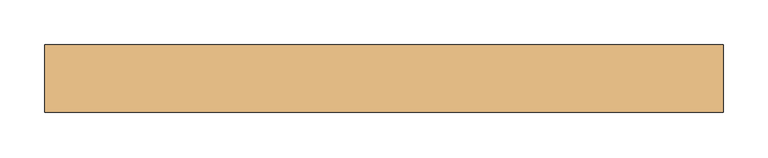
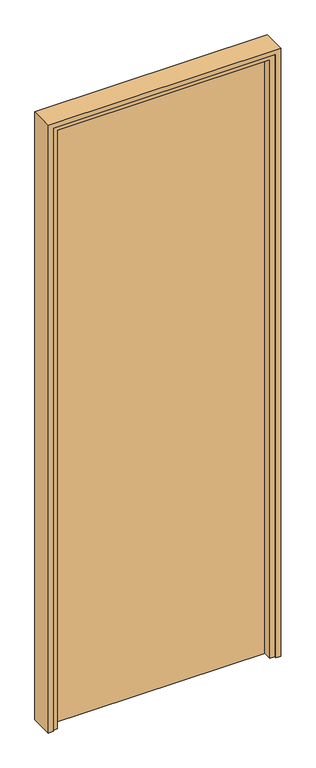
"""IFC4 building model written with IfcOpenShell, lengths in millimetres: door geometry, VERTI ELEMENT - dveřní panel : ELEMENT - dveřní panel."""

from ifc_helpers import new_model, si_unit, origin, origin_with_axes, place, context, project, spatial, polyline, outline, extrude, faceted_brep, source, transform, mapped, element, save


def door_bf8c5602(model_context):
    return source(origin(), model_context, "Body", "SolidModel", [
        extrude(outline(polyline([(361.5, 37.5), (361.5, -2.5), (-361.5, -2.5), (-361.5, 37.5), (361.5, 37.5)])), origin_with_axes(), (0.0, 0.0, 1.0), 2071.5),
        faceted_brep([(-361.5, -37.5, 0.0), (-377.5, -37.5, 0.0), (-377.5, 37.5, 0.0), (-361.5, 37.5, 0.0), (-361.5, -2.5, 0.0), (-345.5, -2.5, 0.0), (-345.5, -32.5, 0.0), (-361.5, -32.5, 0.0), (-361.5, -37.5, 2071.5), (361.5, -37.5, 2071.5), (361.5, -37.5, 0.0), (377.5, -37.5, 0.0), (377.5, -37.5, 2087.5), (-377.5, -37.5, 2087.5), (-377.5, 37.5, 2087.5), (377.5, 37.5, 2087.5), (377.5, 37.5, 0.0), (361.5, 37.5, 0.0), (361.5, 37.5, 2071.5), (-361.5, 37.5, 2071.5), (-361.5, -2.5, 2071.5), (361.5, -2.5, 2071.5), (361.5, -2.5, 0.0), (345.5, -2.5, 0.0), (345.5, -2.5, 2055.5), (-345.5, -2.5, 2055.5), (-345.5, -32.5, 2055.5), (345.5, -32.5, 2055.5), (345.5, -32.5, 0.0), (361.5, -32.5, 0.0), (361.5, -32.5, 2071.5), (-361.5, -32.5, 2071.5)], [[[0, 1, 2, 3, 4, 5, 6, 7]], [[1, 0, 8, 9, 10, 11, 12, 13]], [[2, 1, 13, 14]], [[3, 2, 14, 15, 16, 17, 18, 19]], [[4, 3, 19, 20]], [[5, 4, 20, 21, 22, 23, 24, 25]], [[6, 5, 25, 26]], [[7, 6, 26, 27, 28, 29, 30, 31]], [[0, 7, 31, 8]], [[9, 30, 29, 10]], [[10, 29, 28, 23, 22, 17, 16, 11]], [[15, 12, 11, 16]], [[21, 18, 17, 22]], [[27, 24, 23, 28]], [[8, 31, 30, 9]], [[14, 13, 12, 15]], [[20, 19, 18, 21]], [[26, 25, 24, 27]]]),
    ])


if __name__ == "__main__":
    model = new_model("IFC4")
    model_context = context("Model", 3, world=origin())
    ifc_project = project(units=[si_unit("LENGTHUNIT", "METRE", prefix="MILLI")], contexts=[model_context])
    site = spatial("IfcSite", under=ifc_project)
    building = spatial("IfcBuilding", under=site)
    placement = place(None, origin())
    door_shape = door_bf8c5602(model_context)
    element("IfcDoor", 1, ObjectType="VERTI ELEMENT - dveřní panel : ELEMENT - dveřní panel", at=placement, inside=building, context=model_context, shape_type="MappedRepresentation", body=[
        mapped(door_shape, transform((0.0, 0.0, 0.0), x_axis=(1.0, 0.0, 0.0), y_axis=(0.0, 1.0, 0.0), z_axis=(0.0, 0.0, 1.0))),
    ])
    save(model, "model.ifc")
